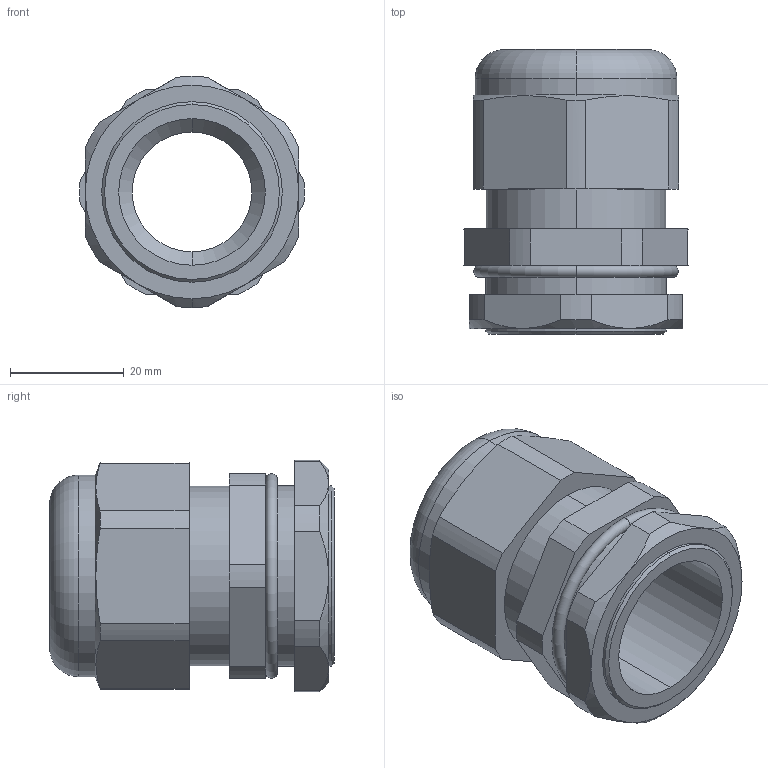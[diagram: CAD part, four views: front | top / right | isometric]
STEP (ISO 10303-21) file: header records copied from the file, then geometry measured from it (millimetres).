
FILE_DESCRIPTION (( 'STEP AP203' ), '1' );
FILE_NAME ('CH-M32.STEP', '2018-02-07T14:44:17', ( '' ), ( '' ), 'SwSTEP 2.0', 'SolidWorks 2012', '' );
FILE_SCHEMA (( 'CONFIG_CONTROL_DESIGN' ));
Length unit declared in the file: millimetre
Products named in the file (1): CH-M32
Bounding box: 39.48 x 50 x 40.58 mm (x, y, z)
Volume: 28385.7 mm3; surface area: 12258.1 mm2
Topology: 1 solids, 1 shells, 78 faces, 189 edges, 118 vertices
Faces by surface type: cylinder 34, plane 25, cone 15, torus 4
Entity records: 2474 total; most frequent: CARTESIAN_POINT 528, DIRECTION 415, ORIENTED_EDGE 378, EDGE_CURVE 189, AXIS2_PLACEMENT_3D 165, VERTEX_POINT 118, CIRCLE 86, LINE 85
